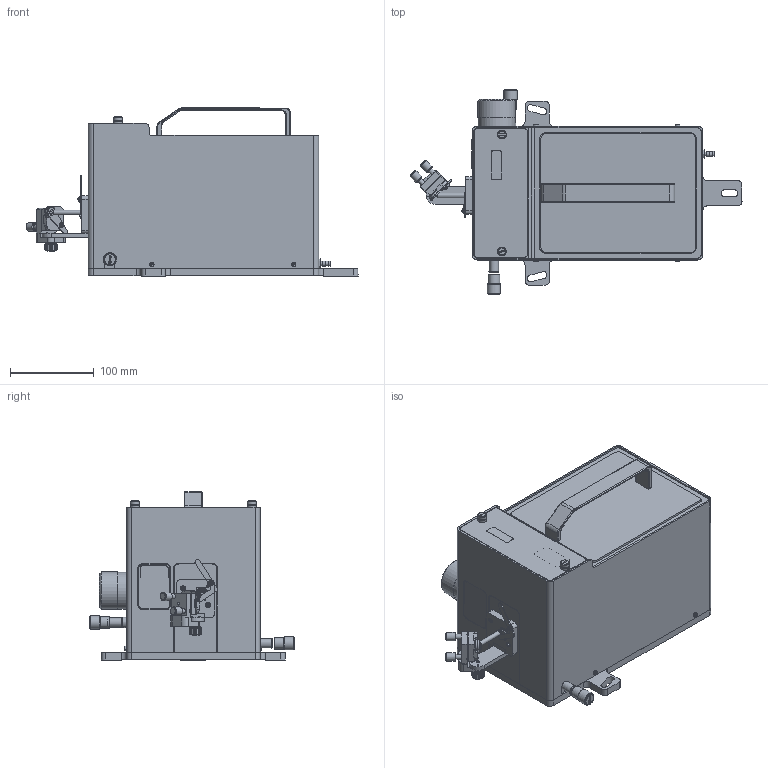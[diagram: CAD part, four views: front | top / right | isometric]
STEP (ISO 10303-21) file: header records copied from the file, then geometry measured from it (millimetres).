
FILE_DESCRIPTION(/* description */ (''),/* implementation_level */ '2;1');
FILE_NAME(/* name */ 'V:\CAD-Daten\_Verpackung\Geräte-Dummys\PulseCheck NG150 - Dummy2.stp',/* time_stamp */ '2021-02-11T13:34:49+01:00',/* author */ ('thomas'),/* organization */ (''),/* preprocessor_version */ 'ST-DEVELOPER v18.1',/* originating_system */ 'Autodesk Inventor 2021',/* authorisation */ '');
FILE_SCHEMA (('AUTOMOTIVE_DESIGN { 1 0 10303 214 3 1 1 }'));
Length unit declared in the file: millimetre
Products named in the file (1): PulseCheck NG150 - Dummy2
Bounding box: 397.52 x 246.12 x 201.26 mm (x, y, z)
Surface area: 533179.1 mm2 (no closed solid volume)
Topology: 0 solids, 162 shells, 1174 faces, 4311 edges, 3258 vertices
Faces by surface type: plane 656, cylinder 351, bspline 66, cone 47, torus 36, sphere 18
Full cylindrical faces by diameter (mm): 1.2 x1, 1.57 x1, 2 x5, 2.1 x2, 2.459 x3, 3 x2, 3.048 x2, 3.242 x8, 3.302 x1, 3.5 x2, 3.7 x2, 4.917 x2, 5 x1, 5.5 x6, 6 x21, 7 x1, 8 x3, 9 x3, 9.2 x1, 10 x2, 10.56 x4, 10.9 x1, 11 x7, 11.2 x1, 12.5 x1, 12.7 x1, 12.8 x1, 13 x1, 14 x5, 16 x2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
Entity records: 48707 total; most frequent: CARTESIAN_POINT 11876, DIRECTION 7627, ORIENTED_EDGE 6500, EDGE_CURVE 4290, VERTEX_POINT 3258, LINE 2561, VECTOR 2561, AXIS2_PLACEMENT_3D 2533
